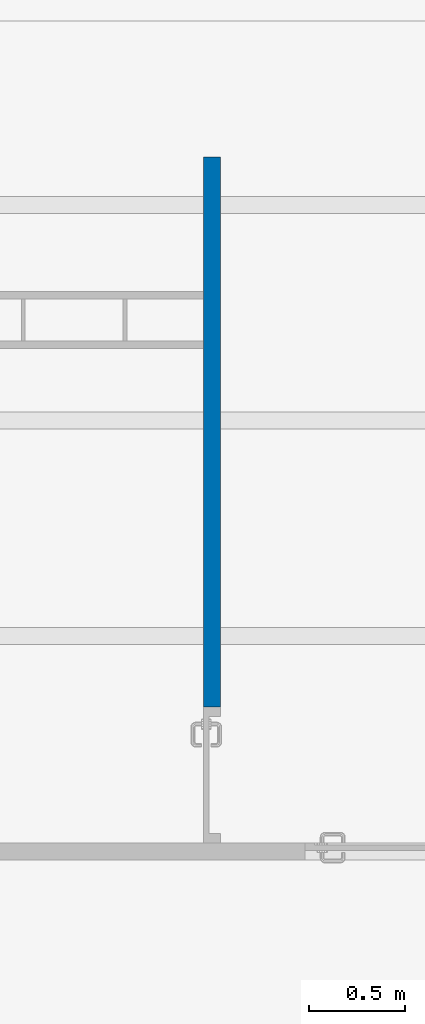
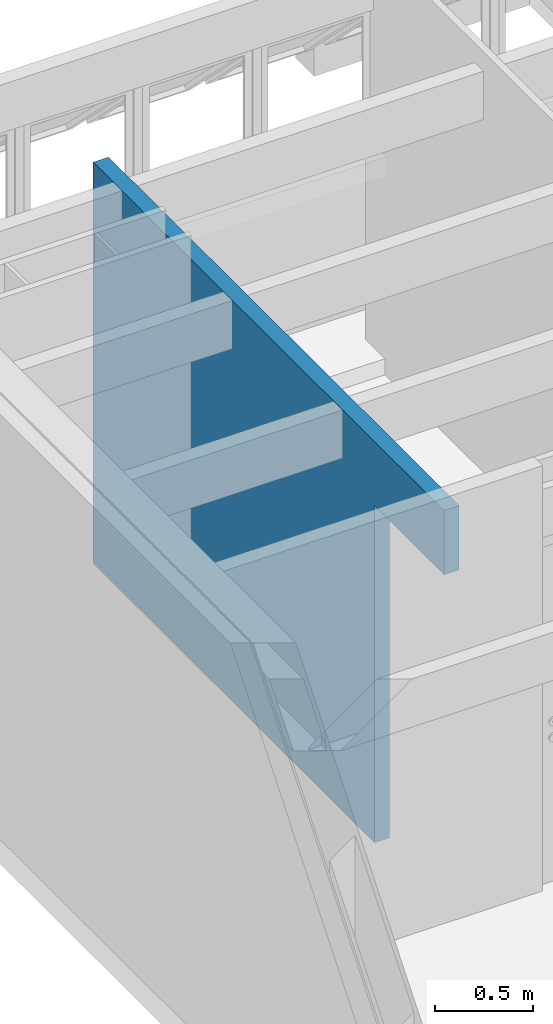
# One storey, part 21 of 40: 1 wall, 1 opening.
"""IFC4 building model written with IfcOpenShell, lengths in millimetres."""

from ifc_helpers import new_model, entity, si_unit, converted_unit, derived_unit, direction, frame, origin_with_axes, origin_2d_with_axis, place, context, subcontext, project, spatial, line, indexed_curve, rectangle, outline, extrude, material, layer, layer_set, layer_usage, type_object, element, save


model = new_model("IFC4")

# Units and contexts
model_context = context("Model", 3, precision=0.01, world=origin_with_axes(), true_north=direction((0.0, 1.0)))
body_context = subcontext(model_context, "Body", "Model", "MODEL_VIEW")
ifc_project = project(units=[si_unit("LENGTHUNIT", "METRE", prefix="MILLI"), si_unit("AREAUNIT", "SQUARE_METRE"), si_unit("VOLUMEUNIT", "CUBIC_METRE"), converted_unit("PLANEANGLEUNIT", "DEGREE", entity("IfcPlaneAngleMeasure", 0.0174532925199), si_unit("PLANEANGLEUNIT", "RADIAN"), dimensions=[0, 0, 0, 0, 0, 0, 0]), converted_unit("TIMEUNIT", "Year", entity("IfcTimeMeasure", 31556926.0), si_unit("TIMEUNIT", "SECOND"), dimensions=[0, 0, 1, 0, 0, 0, 0]), si_unit("MASSUNIT", "GRAM", prefix="KILO"), si_unit("THERMODYNAMICTEMPERATUREUNIT", "DEGREE_CELSIUS"), si_unit("LUMINOUSINTENSITYUNIT", "LUMEN"), si_unit("ENERGYUNIT", "JOULE", prefix="MEGA"), derived_unit("THERMALCONDUCTANCEUNIT", [(si_unit("POWERUNIT", "WATT"), 1), (si_unit("LENGTHUNIT", "METRE"), -1), (si_unit("THERMODYNAMICTEMPERATUREUNIT", "KELVIN"), -1)]), derived_unit("SPECIFICHEATCAPACITYUNIT", [(si_unit("ENERGYUNIT", "JOULE"), 1), (si_unit("MASSUNIT", "GRAM", prefix="KILO"), -1), (si_unit("THERMODYNAMICTEMPERATUREUNIT", "KELVIN"), -1)]), derived_unit("MASSDENSITYUNIT", [(si_unit("MASSUNIT", "GRAM", prefix="KILO"), 1), (si_unit("VOLUMEUNIT", "CUBIC_METRE"), -1)])], contexts=[model_context])

# Site, building, storey
site_placement = place(None, origin_with_axes())
site = spatial("IfcSite", under=ifc_project, at=site_placement, Name="Local", CompositionType="ELEMENT")
building_placement = place(site_placement, origin_with_axes())
building = spatial("IfcBuilding", under=site, at=building_placement, Name="Construção", CompositionType="ELEMENT")
storey_placement = place(building_placement, frame((0.0, 0.0, 5300.0), z_axis=(0.0, 0.0, 1.0), x_axis=(1.0, 0.0, 0.0)))
storey = spatial("IfcBuildingStorey", under=building, at=storey_placement, Name="Terceiro Pavimento", CompositionType="ELEMENT", Elevation=5300.0)

# Wall, opening
ifc_material = material(Name="GENÉRICO - VEDAÇÃO EXTERNA")
ifc_layer = layer(ifc_material, 90.0, ventilated="UNKNOWN", Name="GENÉRICO - VEDAÇÃO EXTERNA")
ifc_layer_set = layer_set([ifc_layer], Name="GENÉRICO - VEDAÇÃO EXTERNA 90")
ifc_layer_usage = layer_usage(ifc_layer_set, "AXIS2", "NEGATIVE", 0.0)
wall_type = type_object("IfcWallType", Name="GENÉRICO - VEDAÇÃO EXTERNA 90", PredefinedType="NOTDEFINED")
wall_placement = place(storey_placement, frame((1730.0, 7345.2195667, 0.0), z_axis=(0.0, 0.0, 1.0), x_axis=(0.0, -1.0, 0.0)))
wall = element("IfcWall", 1, at=wall_placement, inside=storey, type_object=wall_type, material=ifc_layer_usage, Name="APTO9-PAREDE-012", PredefinedType="NOTDEFINED", context=body_context, shape_type="SweptSolid", body=[
    extrude(outline(indexed_curve([(0.0, -90.0), (3580.0, -90.0), (3580.0, 0.0), (0.0, 0.0)], segments=[line(1, 2, 3, 4, 1)])), origin_with_axes(), (0.0, 0.0, 1.0), 2500.0),
])
opening_placement = place(wall_placement, frame((3225.0, 0.0, 0.0), z_axis=(0.0, 0.0, 1.0), x_axis=(1.0, 0.0, 0.0)))
element("IfcOpeningElement", 2, at=opening_placement, cuts=wall, Name="APTO9-PORTA-003", context=body_context, shape_type="SweptSolid", body=[
    extrude(rectangle(XDim=710.0, YDim=2100.0, at=origin_2d_with_axis()), frame((0.0, -90.0, 1050.0), z_axis=(0.0, -1.0, 0.0), x_axis=(1.0, 0.0, 0.0)), (0.0, 0.0, -1.0), 270.0),
])

save(model, "model.ifc")
